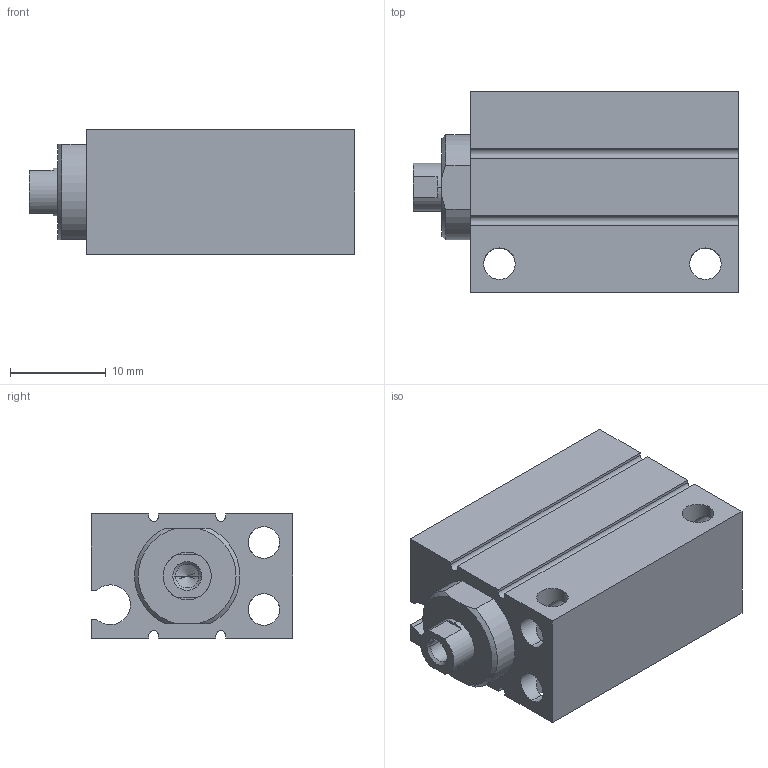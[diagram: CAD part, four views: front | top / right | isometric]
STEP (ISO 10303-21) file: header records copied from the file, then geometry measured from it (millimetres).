
FILE_DESCRIPTION (( 'STEP AP203' ), '1' );
FILE_NAME ('CLJB8-15.STEP', '2020-07-30T18:45:25', ( '' ), ( '' ), 'SwSTEP 2.0', 'SolidWorks 2019', '' );
FILE_SCHEMA (( 'CONFIG_CONTROL_DESIGN' ));
Length unit declared in the file: millimetre
Products named in the file (1): CLJB8-15
Bounding box: 34 x 21 x 13 mm (x, y, z)
Volume: 6377.2 mm3; surface area: 4679.7 mm2
Topology: 2 solids, 2 shells, 96 faces, 252 edges, 153 vertices
Faces by surface type: cylinder 49, plane 33, cone 14
Entity records: 2995 total; most frequent: CARTESIAN_POINT 604, ORIENTED_EDGE 492, DIRECTION 482, EDGE_CURVE 246, AXIS2_PLACEMENT_3D 175, VERTEX_POINT 153, LINE 132, VECTOR 132
